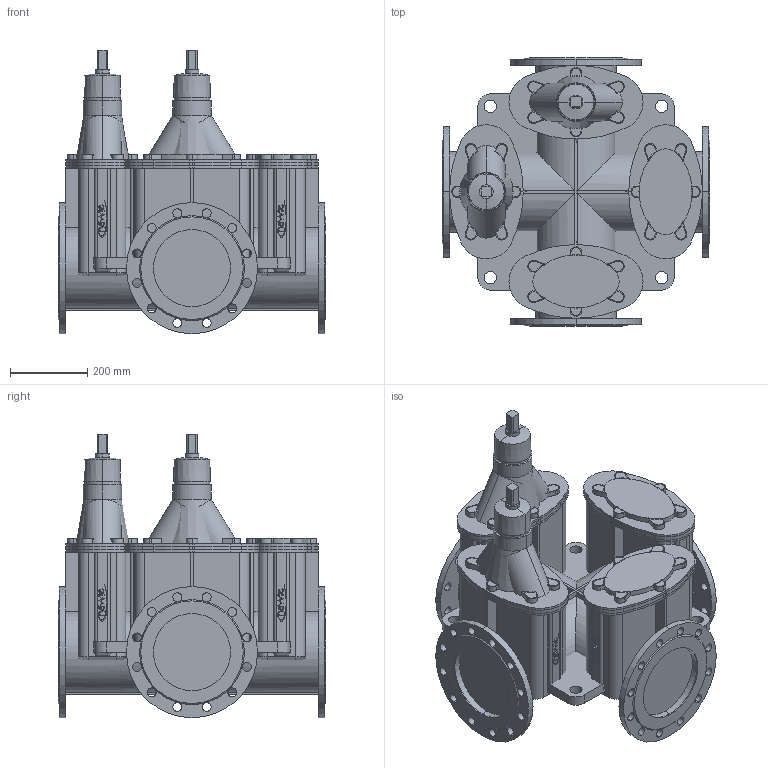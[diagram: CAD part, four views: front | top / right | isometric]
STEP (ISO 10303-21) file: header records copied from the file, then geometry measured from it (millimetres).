
FILE_DESCRIPTION(('STEP AP214'),'1');
FILE_NAME('S:/EK/USER/CAT6/3DHomepage_27-04-2012/neu_23-01-2013/4400E2/4400E2_PN16_DN200_2_9-12-B-B.STP','2013-01-23T15:22:56',(' '),(' '),'Spatial InterOp 3D',' ',' ');
FILE_SCHEMA(('automotive_design'));
Length unit declared in the file: millimetre
Products named in the file (186): 3D-Objekt
Bounding box: 695 x 695 x 735 mm (x, y, z)
Volume: 103531785.7 mm3; surface area: 6076015.5 mm2
Topology: 186 solids, 186 shells, 1838 faces, 4364 edges, 2906 vertices
Faces by surface type: plane 962, cylinder 824, cone 20, bspline 16, torus 16
Entity records: 73056 total; most frequent: DIRECTION 10144, CARTESIAN_POINT 9566, ORIENTED_EDGE 8728, EDGE_CURVE 4364, AXIS2_PLACEMENT_3D 3772, VERTEX_POINT 2906, LINE 2600, VECTOR 2600
